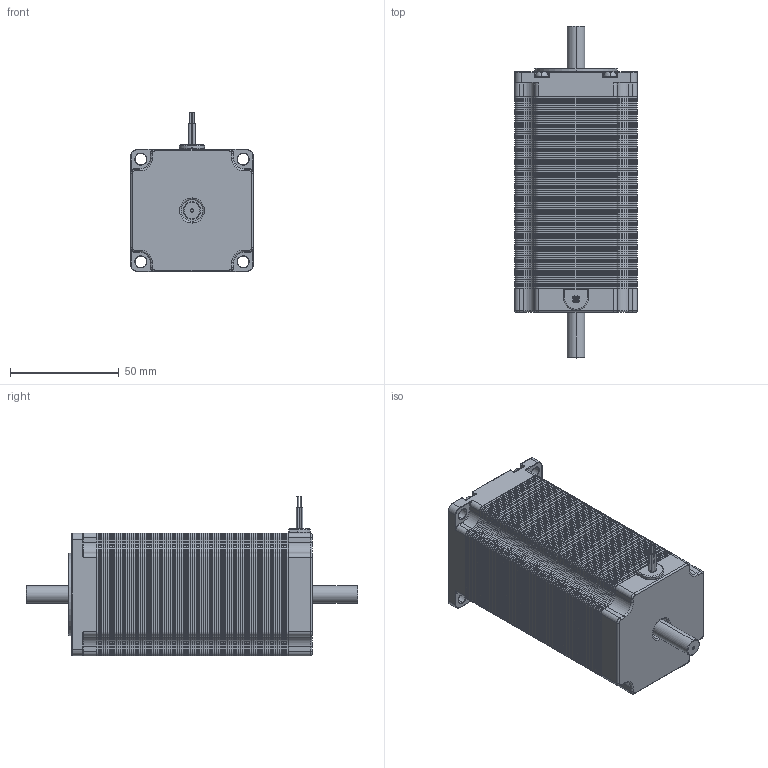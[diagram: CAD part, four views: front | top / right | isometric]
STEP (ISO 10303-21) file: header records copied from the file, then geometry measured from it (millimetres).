
FILE_DESCRIPTION (( 'STEP AP214' ), '1' );
FILE_NAME ('Nema 23 Stepper Motor length 112mm_DS_8mm.STEP', '2020-11-11T11:16:41', ( 'Moofasta' ), ( '' ), 'SwSTEP 2.0', 'SolidWorks 2020', '' );
FILE_SCHEMA (( 'AUTOMOTIVE_DESIGN' ));
Length unit declared in the file: millimetre
Products named in the file (1): Nema 23 Stepper Motor length 112mm_DS_8mm
Bounding box: 56.3 x 152.5 x 73.3 mm (x, y, z)
Volume: 319461.8 mm3; surface area: 537361.8 mm2
Topology: 104 solids, 104 shells, 6988 faces, 15876 edges, 9082 vertices
Faces by surface type: plane 3514, cone 2140, cylinder 1220, torus 94, sphere 12, bspline 8
Entity records: 263575 total; most frequent: DIRECTION 34470, CARTESIAN_POINT 32375, ORIENTED_EDGE 31712, EDGE_CURVE 15856, AXIS2_PLACEMENT_3D 11705, VECTOR 11060, LINE 11060, VERTEX_POINT 9082
